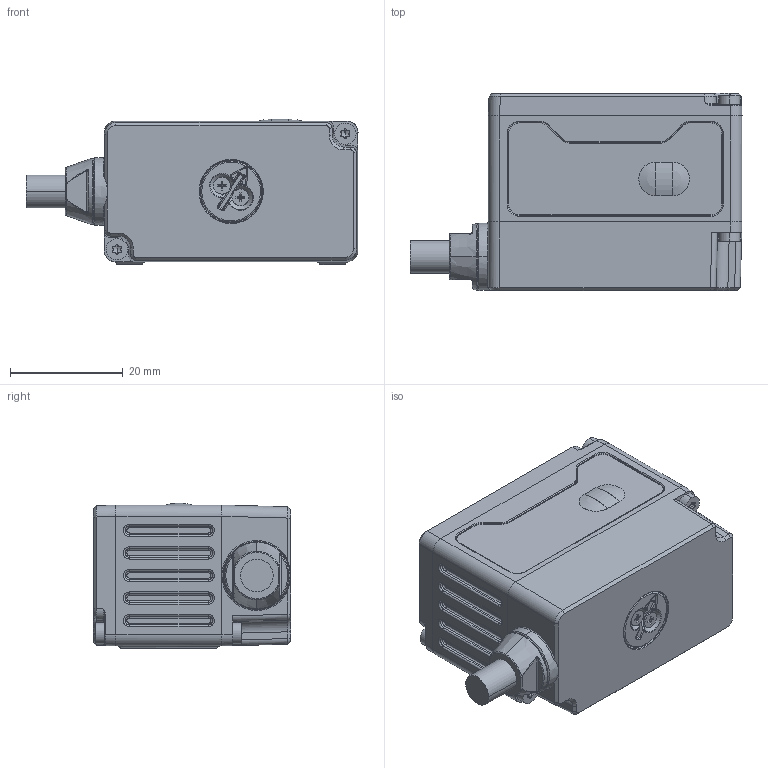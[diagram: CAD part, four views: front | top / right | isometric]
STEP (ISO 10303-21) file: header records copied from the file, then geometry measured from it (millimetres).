
FILE_DESCRIPTION((''),'2;1');
FILE_NAME('DH9-RDI000384-6070_1','2025-09-29T17:41:52',('401198'),(''),'CREO PARAMETRIC BY PTC INC, 2020184','CREO PARAMETRIC BY PTC INC, 2020184','');
FILE_SCHEMA(('CONFIG_CONTROL_DESIGN','SHAPE_APPEARANCE_LAYERS_GROUPS'));
Length unit declared in the file: millimetre
Products named in the file (1): DH9-RDI000384-6070_1
Bounding box: 58.9 x 35 x 25.82 mm (x, y, z)
Volume: 38152.8 mm3; surface area: 8455 mm2
Topology: 1 solids, 15 shells, 911 faces, 2291 edges, 1412 vertices
Faces by surface type: plane 284, cylinder 242, cone 151, bspline 111, torus 101, sphere 22
Entity records: 40168 total; most frequent: CARTESIAN_POINT 10909, DIRECTION 4612, ORIENTED_EDGE 4510, PRESENTATION_STYLE_ASSIGNMENT 2377, STYLED_ITEM 2256, CURVE_STYLE 2255, EDGE_CURVE 2255, AXIS2_PLACEMENT_3D 1823
